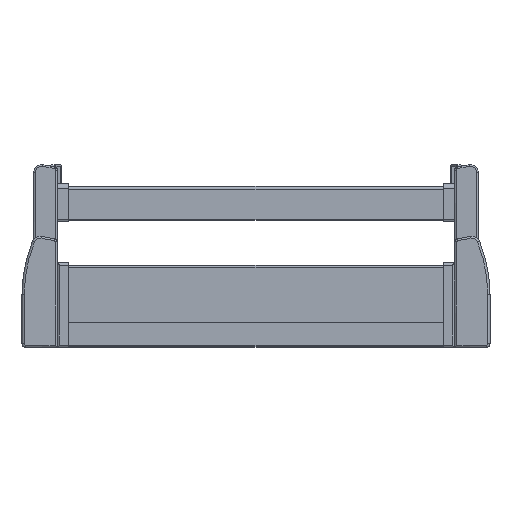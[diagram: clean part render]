
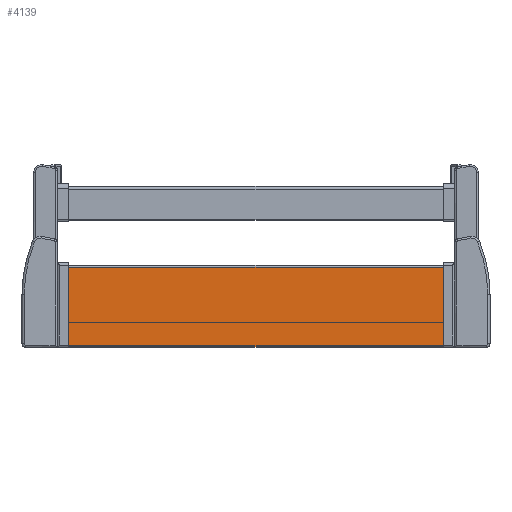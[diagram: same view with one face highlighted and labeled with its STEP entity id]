
A CAD part, top view. The second image highlights one B-rep face of the part: STEP entity #4139.
In plain terms, the highlighted planar face has unit normal (0, 0, 1).
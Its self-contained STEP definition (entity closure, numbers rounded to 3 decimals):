
#2203 = VECTOR ( 'NONE', #2204, 1000. ) ;
#2204 = DIRECTION ( 'NONE',  ( -1., 0., 0. ) ) ;
#2215 = CARTESIAN_POINT ( 'NONE',  ( 237.556, -92.5, 1.4 ) ) ;
#2216 = LINE ( 'NONE', #2215, #2203 ) ;
#2316 = CARTESIAN_POINT ( 'NONE',  ( 163.8, -92.5, 1.4 ) ) ;
#2317 = DIRECTION ( 'NONE',  ( 0., 1., 0. ) ) ;
#2318 = VECTOR ( 'NONE', #2317, 1000. ) ;
#2319 = CARTESIAN_POINT ( 'NONE',  ( 163.8, -92.5, 1.4 ) ) ;
#2320 = LINE ( 'NONE', #2319, #2318 ) ;
#2321 = CARTESIAN_POINT ( 'NONE',  ( 163.8, -23., 1.4 ) ) ;
#2478 = DIRECTION ( 'NONE',  ( 0., 1., 0. ) ) ;
#2479 = VECTOR ( 'NONE', #2478, 1000. ) ;
#2483 = CARTESIAN_POINT ( 'NONE',  ( -163.8, -92.5, 1.4 ) ) ;
#2485 = LINE ( 'NONE', #2483, #2479 ) ;
#2729 = CARTESIAN_POINT ( 'NONE',  ( -163.8, -23., 1.4 ) ) ;
#2730 = DIRECTION ( 'NONE',  ( -1., 0., 0. ) ) ;
#2731 = VECTOR ( 'NONE', #2730, 1000. ) ;
#2732 = CARTESIAN_POINT ( 'NONE',  ( 237.556, -23., 1.4 ) ) ;
#2733 = DIRECTION ( 'NONE',  ( 0., 1., 0. ) ) ;
#2734 = DIRECTION ( 'NONE',  ( 0., 0., -1. ) ) ;
#2735 = CARTESIAN_POINT ( 'NONE',  ( 237.556, -92.5, 1.4 ) ) ;
#2736 = AXIS2_PLACEMENT_3D ( 'NONE', #2735, #2734, #2733 ) ;
#2737 = PLANE ( 'NONE',  #2736 ) ;
#2738 = LINE ( 'NONE', #2732, #2731 ) ;
#2741 = FACE_OUTER_BOUND ( 'NONE', #4140, .T. ) ;
#2747 = CARTESIAN_POINT ( 'NONE',  ( -163.8, -92.5, 1.4 ) ) ;
#3568 = EDGE_CURVE ( 'NONE', #3846, #4136, #2216, .T. ) ;
#3843 = VERTEX_POINT ( 'NONE', #2321 ) ;
#3845 = EDGE_CURVE ( 'NONE', #3846, #3843, #2320, .T. ) ;
#3846 = VERTEX_POINT ( 'NONE', #2316 ) ;
#4136 = VERTEX_POINT ( 'NONE', #2747 ) ;
#4139 = ADVANCED_FACE ( 'NONE', ( #2741 ), #2737, .F. ) ;
#4140 = EDGE_LOOP ( 'NONE', ( #4141, #4142, #4143, #4146 ) ) ;
#4141 = ORIENTED_EDGE ( 'NONE', *, *, #3568, .F. ) ;
#4142 = ORIENTED_EDGE ( 'NONE', *, *, #3845, .T. ) ;
#4143 = ORIENTED_EDGE ( 'NONE', *, *, #4144, .T. ) ;
#4144 = EDGE_CURVE ( 'NONE', #3843, #4145, #2738, .T. ) ;
#4145 = VERTEX_POINT ( 'NONE', #2729 ) ;
#4146 = ORIENTED_EDGE ( 'NONE', *, *, #4147, .F. ) ;
#4147 = EDGE_CURVE ( 'NONE', #4136, #4145, #2485, .T. ) ;
